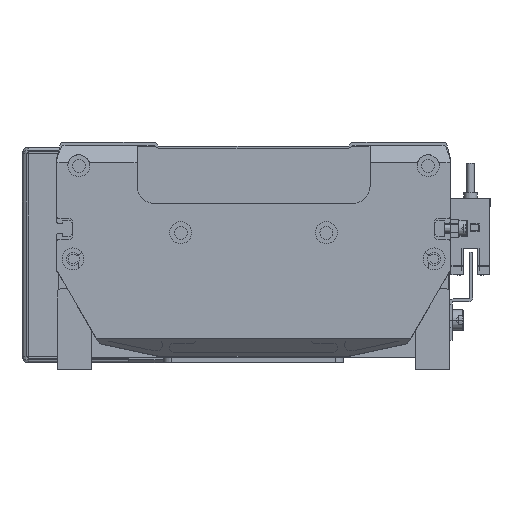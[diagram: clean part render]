
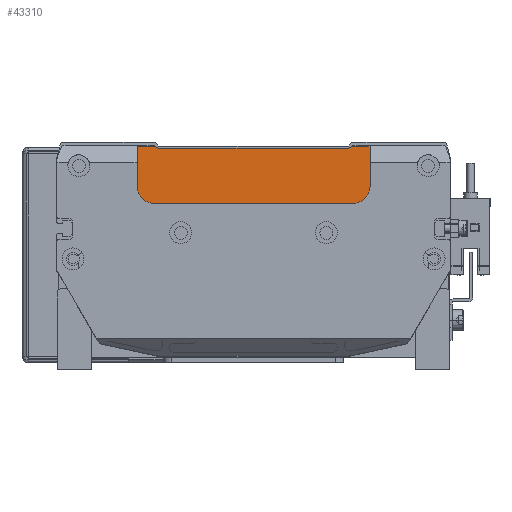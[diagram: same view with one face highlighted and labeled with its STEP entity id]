
A CAD part, front view. The second image highlights one B-rep face of the part: STEP entity #43310.
In plain terms, the highlighted planar face has unit normal (0, -1, 0) as drawn and (0, 0, -1) by its records, which use the part's own axes.
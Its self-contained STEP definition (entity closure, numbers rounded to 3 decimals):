
#54 = VECTOR ( 'NONE', #18760, 1000. ) ;
#231 = CARTESIAN_POINT ( 'NONE',  ( 43.604, 1.5, -364. ) ) ;
#2067 = VERTEX_POINT ( 'NONE', #34568 ) ;
#2414 = ORIENTED_EDGE ( 'NONE', *, *, #24280, .T. ) ;
#3453 = VERTEX_POINT ( 'NONE', #19316 ) ;
#4484 = DIRECTION ( 'NONE',  ( 0., 0., -1. ) ) ;
#4487 = DIRECTION ( 'NONE',  ( -1., 0., 0. ) ) ;
#5025 = CARTESIAN_POINT ( 'NONE',  ( 3.604, 2., -364. ) ) ;
#5333 = DIRECTION ( 'NONE',  ( 0.894, -0.447, 0. ) ) ;
#5908 = ORIENTED_EDGE ( 'NONE', *, *, #21901, .T. ) ;
#6757 = CIRCLE ( 'NONE', #18701, 6. ) ;
#7270 = VERTEX_POINT ( 'NONE', #27786 ) ;
#7426 = PLANE ( 'NONE',  #32942 ) ;
#7534 = LINE ( 'NONE', #25775, #25851 ) ;
#7763 = ORIENTED_EDGE ( 'NONE', *, *, #23241, .T. ) ;
#8168 = CARTESIAN_POINT ( 'NONE',  ( 37.604, 15., -364. ) ) ;
#8171 = DIRECTION ( 'NONE',  ( 0., 0., -1. ) ) ;
#8191 = ORIENTED_EDGE ( 'NONE', *, *, #13746, .T. ) ;
#8232 = LINE ( 'NONE', #25059, #27530 ) ;
#8820 = DIRECTION ( 'NONE',  ( -1., 0., 0. ) ) ;
#8911 = LINE ( 'NONE', #31758, #54 ) ;
#9052 = EDGE_LOOP ( 'NONE', ( #8191, #2414, #5908, #37318, #7763, #32501, #34132, #15921, #19904, #27919 ) ) ;
#9124 = DIRECTION ( 'NONE',  ( 0., 1., 0. ) ) ;
#9255 = EDGE_CURVE ( 'NONE', #3453, #32075, #10283, .T. ) ;
#9524 = VERTEX_POINT ( 'NONE', #231 ) ;
#10283 = LINE ( 'NONE', #5025, #22826 ) ;
#11356 = EDGE_CURVE ( 'NONE', #25961, #7270, #15869, .T. ) ;
#11593 = DIRECTION ( 'NONE',  ( 0., -1., 0. ) ) ;
#12274 = VERTEX_POINT ( 'NONE', #28910 ) ;
#13746 = EDGE_CURVE ( 'NONE', #32075, #21062, #13812, .T. ) ;
#13812 = LINE ( 'NONE', #38283, #32610 ) ;
#15683 = CARTESIAN_POINT ( 'NONE',  ( 0.903, 19.599, -364. ) ) ;
#15869 = CIRCLE ( 'NONE', #17040, 6. ) ;
#15921 = ORIENTED_EDGE ( 'NONE', *, *, #35174, .T. ) ;
#15963 = DIRECTION ( 'NONE',  ( 1., 0., 0. ) ) ;
#17040 = AXIS2_PLACEMENT_3D ( 'NONE', #32233, #18957, #42082 ) ;
#17448 = CARTESIAN_POINT ( 'NONE',  ( 37.604, 21., -364. ) ) ;
#18112 = CARTESIAN_POINT ( 'NONE',  ( -36.396, 15., -364. ) ) ;
#18234 = DIRECTION ( 'NONE',  ( -0.894, -0.447, 0. ) ) ;
#18701 = AXIS2_PLACEMENT_3D ( 'NONE', #8168, #4484, #31455 ) ;
#18733 = VECTOR ( 'NONE', #5333, 1000. ) ;
#18760 = DIRECTION ( 'NONE',  ( -1., 0., 0. ) ) ;
#18957 = DIRECTION ( 'NONE',  ( 0., 0., -1. ) ) ;
#19316 = CARTESIAN_POINT ( 'NONE',  ( 36.1, 2., -364. ) ) ;
#19642 = CARTESIAN_POINT ( 'NONE',  ( 43.604, 15., -364. ) ) ;
#19904 = ORIENTED_EDGE ( 'NONE', *, *, #30026, .F. ) ;
#21049 = CARTESIAN_POINT ( 'NONE',  ( 3.604, 1.5, -364. ) ) ;
#21062 = VERTEX_POINT ( 'NONE', #37987 ) ;
#21630 = VERTEX_POINT ( 'NONE', #17448 ) ;
#21901 = EDGE_CURVE ( 'NONE', #2067, #25961, #7534, .T. ) ;
#22826 = VECTOR ( 'NONE', #8820, 1000. ) ;
#23027 = CARTESIAN_POINT ( 'NONE',  ( 3.604, 21., -364. ) ) ;
#23241 = EDGE_CURVE ( 'NONE', #7270, #21630, #40907, .T. ) ;
#24280 = EDGE_CURVE ( 'NONE', #21062, #2067, #8911, .T. ) ;
#24722 = VECTOR ( 'NONE', #37392, 1000. ) ;
#24805 = CARTESIAN_POINT ( 'NONE',  ( 3.604, 25., -364. ) ) ;
#25059 = CARTESIAN_POINT ( 'NONE',  ( 43.604, 25., -364. ) ) ;
#25775 = CARTESIAN_POINT ( 'NONE',  ( -36.396, 25., -364. ) ) ;
#25851 = VECTOR ( 'NONE', #9124, 1000. ) ;
#25961 = VERTEX_POINT ( 'NONE', #18112 ) ;
#27530 = VECTOR ( 'NONE', #11593, 1000. ) ;
#27786 = CARTESIAN_POINT ( 'NONE',  ( -30.396, 21., -364. ) ) ;
#27919 = ORIENTED_EDGE ( 'NONE', *, *, #9255, .T. ) ;
#28876 = VERTEX_POINT ( 'NONE', #19642 ) ;
#28910 = CARTESIAN_POINT ( 'NONE',  ( 37.1, 1.5, -364. ) ) ;
#29881 = EDGE_CURVE ( 'NONE', #21630, #28876, #6757, .T. ) ;
#30026 = EDGE_CURVE ( 'NONE', #3453, #12274, #30234, .T. ) ;
#30234 = LINE ( 'NONE', #15683, #18733 ) ;
#31455 = DIRECTION ( 'NONE',  ( 1., 0., 0. ) ) ;
#31758 = CARTESIAN_POINT ( 'NONE',  ( 3.604, 1.5, -364. ) ) ;
#31947 = VECTOR ( 'NONE', #15963, 1000. ) ;
#32075 = VERTEX_POINT ( 'NONE', #38413 ) ;
#32233 = CARTESIAN_POINT ( 'NONE',  ( -30.396, 15., -364. ) ) ;
#32501 = ORIENTED_EDGE ( 'NONE', *, *, #29881, .T. ) ;
#32596 = EDGE_CURVE ( 'NONE', #28876, #9524, #8232, .T. ) ;
#32610 = VECTOR ( 'NONE', #18234, 1000. ) ;
#32942 = AXIS2_PLACEMENT_3D ( 'NONE', #24805, #8171, #4487 ) ;
#33267 = FACE_OUTER_BOUND ( 'NONE', #9052, .T. ) ;
#34132 = ORIENTED_EDGE ( 'NONE', *, *, #32596, .T. ) ;
#34568 = CARTESIAN_POINT ( 'NONE',  ( -36.396, 1.5, -364. ) ) ;
#35174 = EDGE_CURVE ( 'NONE', #9524, #12274, #41976, .T. ) ;
#37318 = ORIENTED_EDGE ( 'NONE', *, *, #11356, .T. ) ;
#37392 = DIRECTION ( 'NONE',  ( -1., 0., 0. ) ) ;
#37987 = CARTESIAN_POINT ( 'NONE',  ( -29.893, 1.5, -364. ) ) ;
#38283 = CARTESIAN_POINT ( 'NONE',  ( -28.893, 2., -364. ) ) ;
#38413 = CARTESIAN_POINT ( 'NONE',  ( -28.893, 2., -364. ) ) ;
#40907 = LINE ( 'NONE', #23027, #31947 ) ;
#41976 = LINE ( 'NONE', #21049, #24722 ) ;
#42082 = DIRECTION ( 'NONE',  ( 1., 0., 0. ) ) ;
#43310 = ADVANCED_FACE ( 'NONE', ( #33267 ), #7426, .T. ) ;
